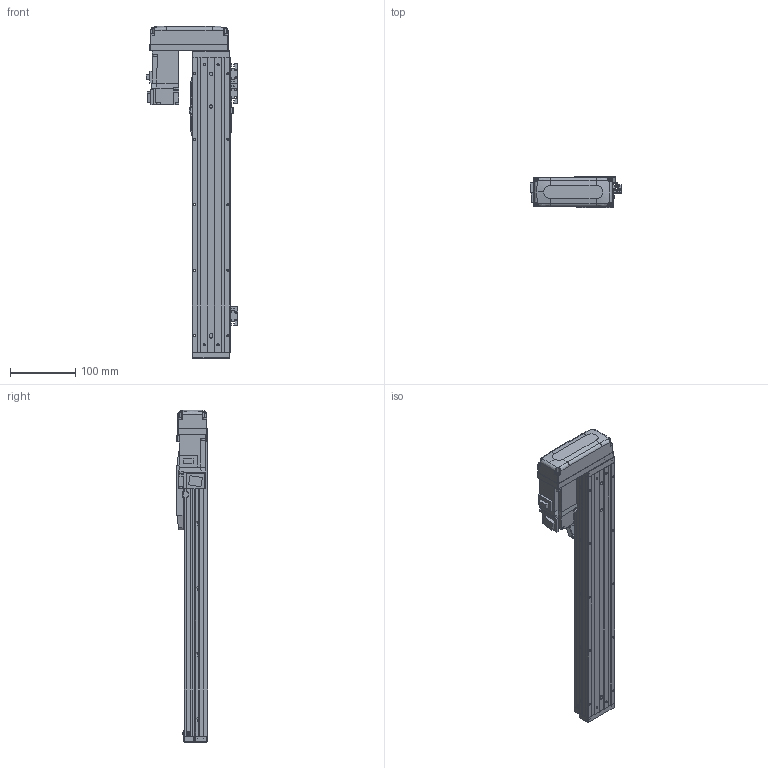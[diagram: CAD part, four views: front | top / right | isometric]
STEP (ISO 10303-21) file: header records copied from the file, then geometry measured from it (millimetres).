
FILE_DESCRIPTION (( 'STEP AP203' ), '1' );
FILE_NAME ('CTHA50-300-BR-M10-C4L.step', '2022-03-19T06:06:41', ( '微软用户' ), ( '微软中国' ), 'SwSTEP 2.0', 'SolidWorks 2020', '' );
FILE_SCHEMA (( 'CONFIG_CONTROL_DESIGN' ));
Length unit declared in the file: millimetre
Products named in the file (20): GBT 70.1-M3℅6; CTHA50-030; KTHA50-001_450; CTHA60-017; CTHA50-031; KTHA50-004; GBT 70.1-M4×12; GBT 70.3-M3℅6; KTHA50-005; CTHA60-016; CTHA50-015-2_CTHA60-015-2; GB¨uT 70.2-M3¡Á6_M3¡Á6; CTHA60-021; CTHA60-033; EE_SX911P_R; HG-KR13（三菱）; GBT 70.1-M3×15; GBT77-2000 M3×3; CTHA50-002; CTHA50-300-BR-M10-C4L
Assembly tree (60 placements, depth 2):
  CTHA50-300-BR-M10-C4L
    KTHA50-001_450
    KTHA50-004
    KTHA50-005
    GB¨uT 70.2-M3¡Á6_M3¡Á6  x10
    EE_SX911P_R  x3
    GBT77-2000 M3×3  x6
    GBT 70.1-M3℅6  x6
    CTHA60-017  x3
    GBT 70.1-M4×12  x10
    CTHA60-016  x2
    CTHA60-021  x2
    HG-KR13（三菱）
    CTHA50-002
    CTHA50-030  x2
    CTHA50-031
    GBT 70.3-M3℅6  x4
    CTHA50-015-2_CTHA60-015-2
    CTHA60-033
    GBT 70.1-M3×15  x4
Bounding box: 139.12 x 48 x 507 mm (x, y, z)
Volume: 1091583.7 mm3; surface area: 283021.5 mm2
Topology: 62 solids, 62 shells, 2493 faces, 5911 edges, 3618 vertices
Faces by surface type: plane 1410, cylinder 576, cone 349, torus 108, bspline 26, sphere 24
Entity records: 42039 total; most frequent: CARTESIAN_POINT 7771, DIRECTION 6535, ORIENTED_EDGE 6330, EDGE_CURVE 3165, LINE 2211, VECTOR 2211, AXIS2_PLACEMENT_3D 2162, VERTEX_POINT 1992
